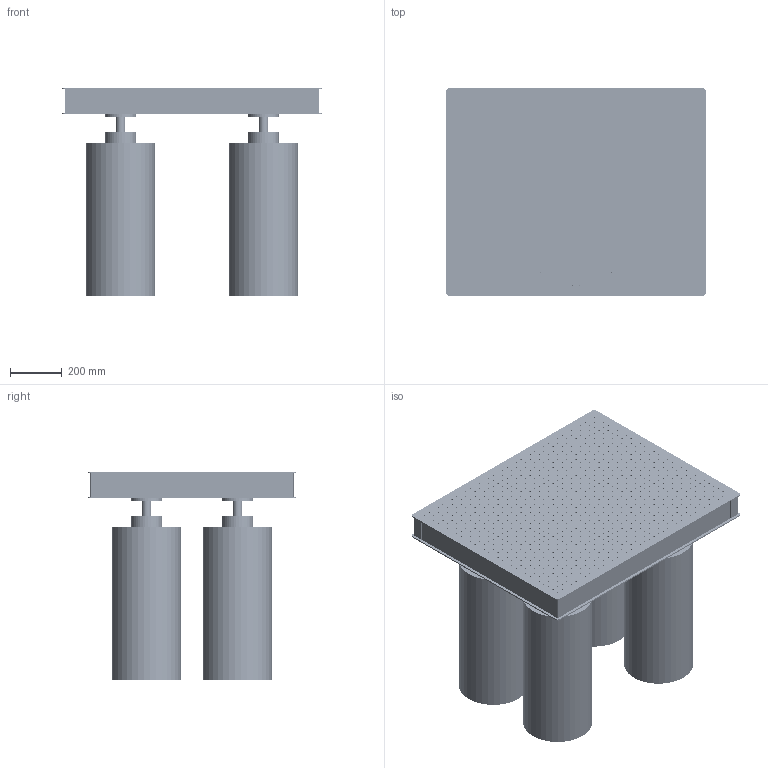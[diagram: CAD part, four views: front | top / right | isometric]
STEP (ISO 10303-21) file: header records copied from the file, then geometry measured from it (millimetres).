
FILE_DESCRIPTION (( 'STEP AP203' ), '1' );
FILE_NAME ('ZDR10-08(AP203).STEP', '2024-04-11T05:59:46', ( 'Windows 蚚誧' ), ( 'Organization' ), 'SwSTEP 2.0', 'SolidWorks 2020', '' );
FILE_SCHEMA (( 'CONFIG_CONTROL_DESIGN' ));
Length unit declared in the file: millimetre
Products named in the file (1): ZDR10-08(AP203)
Bounding box: 1000 x 800 x 800 mm (x, y, z)
Volume: 143481149.8 mm3; surface area: 6627660.7 mm2
Topology: 34 solids, 34 shells, 2736 faces, 7968 edges, 5312 vertices
Faces by surface type: cylinder 2328, plane 408
Entity records: 97679 total; most frequent: DIRECTION 18098, CARTESIAN_POINT 16017, ORIENTED_EDGE 15936, EDGE_CURVE 7968, AXIS2_PLACEMENT_3D 7393, VERTEX_POINT 5312, EDGE_LOOP 5028, CIRCLE 4656
